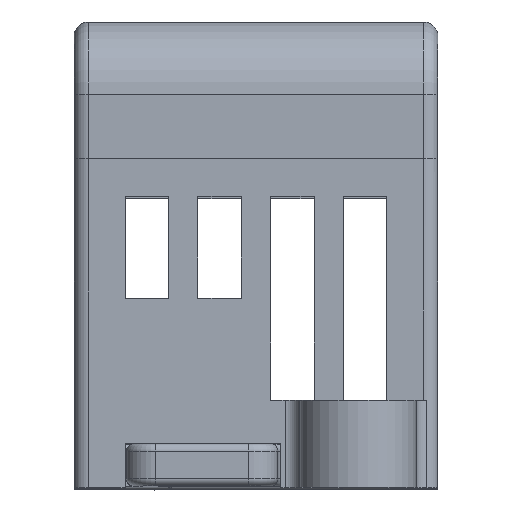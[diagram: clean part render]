
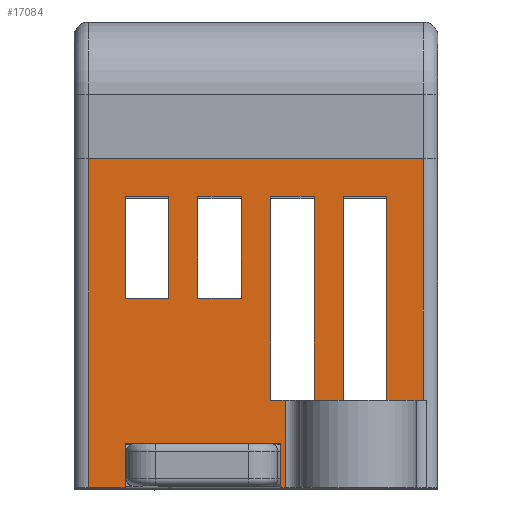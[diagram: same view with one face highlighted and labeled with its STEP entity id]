
A CAD part, top view. The second image highlights one B-rep face of the part: STEP entity #17084.
In plain terms, the highlighted planar face has unit normal (0, 0, 1).
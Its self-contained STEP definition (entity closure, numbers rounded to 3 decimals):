
#8603=DIRECTION('',(1.,0.,0.));
#8604=VECTOR('',#8603,2.5);
#8605=CARTESIAN_POINT('',(-11.5,0.,45.));
#8606=LINE('',#8605,#8604);
#8792=DIRECTION('',(0.,-1.,0.));
#8793=VECTOR('',#8792,14.);
#8794=CARTESIAN_POINT('',(1.,20.,45.));
#8795=LINE('',#8794,#8793);
#8799=DIRECTION('',(1.,0.,0.));
#8800=VECTOR('',#8799,1.);
#8801=CARTESIAN_POINT('',(1.,6.,45.));
#8802=LINE('',#8801,#8800);
#8806=DIRECTION('',(0.,-1.,0.));
#8807=VECTOR('',#8806,6.);
#8808=CARTESIAN_POINT('',(2.,6.,45.));
#8809=LINE('',#8808,#8807);
#8813=DIRECTION('',(-1.,0.,0.));
#8814=VECTOR('',#8813,0.3);
#8815=CARTESIAN_POINT('',(2.,0.,45.));
#8816=LINE('',#8815,#8814);
#8820=DIRECTION('',(1.,0.,0.));
#8821=VECTOR('',#8820,10.7);
#8822=CARTESIAN_POINT('',(-9.,3.,45.));
#8823=LINE('',#8822,#8821);
#8827=DIRECTION('',(0.,1.,0.));
#8828=VECTOR('',#8827,3.);
#8829=CARTESIAN_POINT('',(-9.,0.,45.));
#8830=LINE('',#8829,#8828);
#8834=DIRECTION('',(1.,0.,0.));
#8835=VECTOR('',#8834,23.);
#8836=CARTESIAN_POINT('',(-11.5,22.6,45.));
#8837=LINE('',#8836,#8835);
#8841=DIRECTION('',(0.,1.,0.));
#8842=VECTOR('',#8841,14.);
#8843=CARTESIAN_POINT('',(9.,6.,45.));
#8844=LINE('',#8843,#8842);
#8848=DIRECTION('',(-1.,0.,0.));
#8849=VECTOR('',#8848,3.);
#8850=CARTESIAN_POINT('',(9.,20.,45.));
#8851=LINE('',#8850,#8849);
#8855=DIRECTION('',(0.,-1.,0.));
#8856=VECTOR('',#8855,14.);
#8857=CARTESIAN_POINT('',(6.,20.,45.));
#8858=LINE('',#8857,#8856);
#8862=DIRECTION('',(0.,1.,0.));
#8863=VECTOR('',#8862,14.);
#8864=CARTESIAN_POINT('',(4.,6.,45.));
#8865=LINE('',#8864,#8863);
#8869=DIRECTION('',(-1.,0.,0.));
#8870=VECTOR('',#8869,3.);
#8871=CARTESIAN_POINT('',(4.,20.,45.));
#8872=LINE('',#8871,#8870);
#8876=DIRECTION('',(-1.,0.,0.));
#8877=VECTOR('',#8876,3.);
#8878=CARTESIAN_POINT('',(-1.,20.,45.));
#8879=LINE('',#8878,#8877);
#8883=DIRECTION('',(0.,-1.,0.));
#8884=VECTOR('',#8883,7.);
#8885=CARTESIAN_POINT('',(-4.,20.,45.));
#8886=LINE('',#8885,#8884);
#8890=DIRECTION('',(1.,0.,0.));
#8891=VECTOR('',#8890,3.);
#8892=CARTESIAN_POINT('',(-4.,13.,45.));
#8893=LINE('',#8892,#8891);
#8897=DIRECTION('',(0.,1.,0.));
#8898=VECTOR('',#8897,7.);
#8899=CARTESIAN_POINT('',(-1.,13.,45.));
#8900=LINE('',#8899,#8898);
#8904=DIRECTION('',(-1.,0.,0.));
#8905=VECTOR('',#8904,3.);
#8906=CARTESIAN_POINT('',(-6.,20.,45.));
#8907=LINE('',#8906,#8905);
#8911=DIRECTION('',(0.,-1.,0.));
#8912=VECTOR('',#8911,7.);
#8913=CARTESIAN_POINT('',(-9.,20.,45.));
#8914=LINE('',#8913,#8912);
#8918=DIRECTION('',(1.,0.,0.));
#8919=VECTOR('',#8918,3.);
#8920=CARTESIAN_POINT('',(-9.,13.,45.));
#8921=LINE('',#8920,#8919);
#8925=DIRECTION('',(0.,1.,0.));
#8926=VECTOR('',#8925,7.);
#8927=CARTESIAN_POINT('',(-6.,13.,45.));
#8928=LINE('',#8927,#8926);
#9049=DIRECTION('',(1.,0.,0.));
#9050=VECTOR('',#9049,2.);
#9051=CARTESIAN_POINT('',(4.,6.,45.));
#9052=LINE('',#9051,#9050);
#9063=DIRECTION('',(1.,0.,0.));
#9064=VECTOR('',#9063,2.5);
#9065=CARTESIAN_POINT('',(9.,6.,45.));
#9066=LINE('',#9065,#9064);
#13760=DIRECTION('',(0.,1.,0.));
#13761=VECTOR('',#13760,3.);
#13762=CARTESIAN_POINT('',(1.7,0.,45.));
#13763=LINE('',#13762,#13761);
#15279=DIRECTION('',(0.,-1.,0.));
#15280=VECTOR('',#15279,16.6);
#15281=CARTESIAN_POINT('',(11.5,22.6,45.));
#15282=LINE('',#15281,#15280);
#15556=DIRECTION('',(0.,-1.,0.));
#15557=VECTOR('',#15556,22.6);
#15558=CARTESIAN_POINT('',(-11.5,22.6,45.));
#15559=LINE('',#15558,#15557);
#15614=CARTESIAN_POINT('',(-11.5,0.,45.));
#15616=VERTEX_POINT('',#15614);
#15634=CARTESIAN_POINT('',(-9.,0.,45.));
#15635=VERTEX_POINT('',#15634);
#15906=CARTESIAN_POINT('',(-11.5,22.6,45.));
#15907=CARTESIAN_POINT('',(11.5,22.6,45.));
#15908=VERTEX_POINT('',#15906);
#15909=VERTEX_POINT('',#15907);
#16405=CARTESIAN_POINT('',(11.5,6.,45.));
#16406=VERTEX_POINT('',#16405);
#16409=CARTESIAN_POINT('',(2.,0.,45.));
#16410=VERTEX_POINT('',#16409);
#16415=CARTESIAN_POINT('',(1.7,0.,45.));
#16416=CARTESIAN_POINT('',(1.7,3.,45.));
#16417=VERTEX_POINT('',#16415);
#16418=VERTEX_POINT('',#16416);
#16419=CARTESIAN_POINT('',(-9.,3.,45.));
#16420=VERTEX_POINT('',#16419);
#16702=CARTESIAN_POINT('',(1.,20.,45.));
#16703=CARTESIAN_POINT('',(1.,6.,45.));
#16704=VERTEX_POINT('',#16702);
#16705=VERTEX_POINT('',#16703);
#16706=CARTESIAN_POINT('',(2.,6.,45.));
#16707=VERTEX_POINT('',#16706);
#16708=CARTESIAN_POINT('',(4.,6.,45.));
#16709=CARTESIAN_POINT('',(4.,20.,45.));
#16710=VERTEX_POINT('',#16708);
#16711=VERTEX_POINT('',#16709);
#16712=CARTESIAN_POINT('',(6.,20.,45.));
#16713=CARTESIAN_POINT('',(6.,6.,45.));
#16714=VERTEX_POINT('',#16712);
#16715=VERTEX_POINT('',#16713);
#16716=CARTESIAN_POINT('',(9.,6.,45.));
#16717=CARTESIAN_POINT('',(9.,20.,45.));
#16718=VERTEX_POINT('',#16716);
#16719=VERTEX_POINT('',#16717);
#16720=CARTESIAN_POINT('',(-1.,20.,45.));
#16721=CARTESIAN_POINT('',(-4.,20.,45.));
#16722=VERTEX_POINT('',#16720);
#16723=VERTEX_POINT('',#16721);
#16724=CARTESIAN_POINT('',(-4.,13.,45.));
#16725=VERTEX_POINT('',#16724);
#16726=CARTESIAN_POINT('',(-1.,13.,45.));
#16727=VERTEX_POINT('',#16726);
#16728=CARTESIAN_POINT('',(-6.,20.,45.));
#16729=CARTESIAN_POINT('',(-9.,20.,45.));
#16730=VERTEX_POINT('',#16728);
#16731=VERTEX_POINT('',#16729);
#16732=CARTESIAN_POINT('',(-9.,13.,45.));
#16733=VERTEX_POINT('',#16732);
#16734=CARTESIAN_POINT('',(-6.,13.,45.));
#16735=VERTEX_POINT('',#16734);
#17024=CARTESIAN_POINT('',(-12.5,0.,45.));
#17025=DIRECTION('',(0.,0.,1.));
#17026=DIRECTION('',(1.,0.,0.));
#17027=AXIS2_PLACEMENT_3D('',#17024,#17025,#17026);
#17028=PLANE('',#17027);
#17030=ORIENTED_EDGE('',*,*,#17029,.T.);
#17032=ORIENTED_EDGE('',*,*,#17031,.T.);
#17034=ORIENTED_EDGE('',*,*,#17033,.T.);
#17035=ORIENTED_EDGE('',*,*,#16941,.T.);
#17037=ORIENTED_EDGE('',*,*,#17036,.T.);
#17039=ORIENTED_EDGE('',*,*,#17038,.F.);
#17040=ORIENTED_EDGE('',*,*,#17013,.F.);
#17041=ORIENTED_EDGE('',*,*,#16855,.F.);
#17043=ORIENTED_EDGE('',*,*,#17042,.F.);
#17045=ORIENTED_EDGE('',*,*,#17044,.T.);
#17047=ORIENTED_EDGE('',*,*,#17046,.T.);
#17049=ORIENTED_EDGE('',*,*,#17048,.F.);
#17051=ORIENTED_EDGE('',*,*,#17050,.T.);
#17053=ORIENTED_EDGE('',*,*,#17052,.T.);
#17055=ORIENTED_EDGE('',*,*,#17054,.T.);
#17057=ORIENTED_EDGE('',*,*,#17056,.F.);
#17059=ORIENTED_EDGE('',*,*,#17058,.T.);
#17061=ORIENTED_EDGE('',*,*,#17060,.T.);
#17062=EDGE_LOOP('',(#17030,#17032,#17034,#17035,#17037,#17039,#17040,#17041,
#17043,#17045,#17047,#17049,#17051,#17053,#17055,#17057,#17059,#17061));
#17063=FACE_OUTER_BOUND('',#17062,.F.);
#17065=ORIENTED_EDGE('',*,*,#17064,.T.);
#17067=ORIENTED_EDGE('',*,*,#17066,.T.);
#17069=ORIENTED_EDGE('',*,*,#17068,.T.);
#17071=ORIENTED_EDGE('',*,*,#17070,.T.);
#17072=EDGE_LOOP('',(#17065,#17067,#17069,#17071));
#17073=FACE_BOUND('',#17072,.F.);
#17075=ORIENTED_EDGE('',*,*,#17074,.T.);
#17077=ORIENTED_EDGE('',*,*,#17076,.T.);
#17079=ORIENTED_EDGE('',*,*,#17078,.T.);
#17081=ORIENTED_EDGE('',*,*,#17080,.T.);
#17082=EDGE_LOOP('',(#17075,#17077,#17079,#17081));
#17083=FACE_BOUND('',#17082,.F.);
#17084=ADVANCED_FACE('',(#17063,#17073,#17083),#17028,.T.);
#16855=EDGE_CURVE('',#15616,#15635,#8606,.T.);
#16941=EDGE_CURVE('',#16410,#16417,#8816,.T.);
#17013=EDGE_CURVE('',#15635,#16420,#8830,.T.);
#17029=EDGE_CURVE('',#16704,#16705,#8795,.T.);
#17031=EDGE_CURVE('',#16705,#16707,#8802,.T.);
#17033=EDGE_CURVE('',#16707,#16410,#8809,.T.);
#17036=EDGE_CURVE('',#16417,#16418,#13763,.T.);
#17038=EDGE_CURVE('',#16420,#16418,#8823,.T.);
#17042=EDGE_CURVE('',#15908,#15616,#15559,.T.);
#17044=EDGE_CURVE('',#15908,#15909,#8837,.T.);
#17046=EDGE_CURVE('',#15909,#16406,#15282,.T.);
#17048=EDGE_CURVE('',#16718,#16406,#9066,.T.);
#17050=EDGE_CURVE('',#16718,#16719,#8844,.T.);
#17052=EDGE_CURVE('',#16719,#16714,#8851,.T.);
#17054=EDGE_CURVE('',#16714,#16715,#8858,.T.);
#17056=EDGE_CURVE('',#16710,#16715,#9052,.T.);
#17058=EDGE_CURVE('',#16710,#16711,#8865,.T.);
#17060=EDGE_CURVE('',#16711,#16704,#8872,.T.);
#17064=EDGE_CURVE('',#16722,#16723,#8879,.T.);
#17066=EDGE_CURVE('',#16723,#16725,#8886,.T.);
#17068=EDGE_CURVE('',#16725,#16727,#8893,.T.);
#17070=EDGE_CURVE('',#16727,#16722,#8900,.T.);
#17074=EDGE_CURVE('',#16730,#16731,#8907,.T.);
#17076=EDGE_CURVE('',#16731,#16733,#8914,.T.);
#17078=EDGE_CURVE('',#16733,#16735,#8921,.T.);
#17080=EDGE_CURVE('',#16735,#16730,#8928,.T.);
